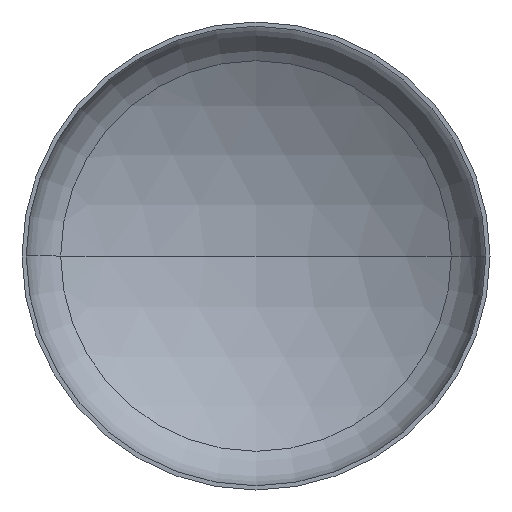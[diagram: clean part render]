
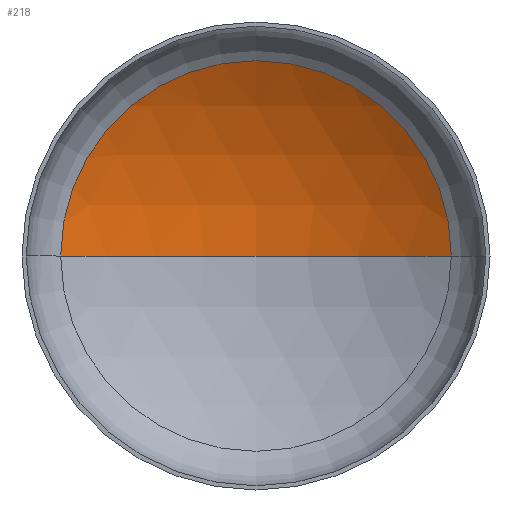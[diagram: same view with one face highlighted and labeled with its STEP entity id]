
A CAD part, front view. The second image highlights one B-rep face of the part: STEP entity #218.
In plain terms, the highlighted spherical face has radius 6000 mm.
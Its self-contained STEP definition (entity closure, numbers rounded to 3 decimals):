
#16 = VERTEX_POINT ( 'NONE', #318 ) ;
#28 = ORIENTED_EDGE ( 'NONE', *, *, #151, .T. ) ;
#31 = VERTEX_POINT ( 'NONE', #338 ) ;
#36 = ORIENTED_EDGE ( 'NONE', *, *, #154, .T. ) ;
#55 = VERTEX_POINT ( 'NONE', #275 ) ;
#73 = DIRECTION ( 'NONE',  ( 1., 0., 0. ) ) ;
#75 = ORIENTED_EDGE ( 'NONE', *, *, #157, .F. ) ;
#78 = DIRECTION ( 'NONE',  ( 0., 0., -1. ) ) ;
#82 = EDGE_LOOP ( 'NONE', ( #75, #36, #28 ) ) ;
#89 = AXIS2_PLACEMENT_3D ( 'NONE', #279, #325, #238 ) ;
#109 = AXIS2_PLACEMENT_3D ( 'NONE', #400, #262, #73 ) ;
#110 = AXIS2_PLACEMENT_3D ( 'NONE', #263, #78, #283 ) ;
#112 = AXIS2_PLACEMENT_3D ( 'NONE', #393, #211, #347 ) ;
#151 = EDGE_CURVE ( 'NONE', #31, #16, #195, .T. ) ;
#154 = EDGE_CURVE ( 'NONE', #55, #31, #257, .T. ) ;
#157 = EDGE_CURVE ( 'NONE', #55, #16, #375, .T. ) ;
#195 = CIRCLE ( 'NONE', #112, 3129.412 ) ;
#211 = DIRECTION ( 'NONE',  ( 0., -1., 0. ) ) ;
#218 = ADVANCED_FACE ( 'NONE', ( #294 ), #356, .F. ) ;
#238 = DIRECTION ( 'NONE',  ( -1., 0., 0. ) ) ;
#257 = CIRCLE ( 'NONE', #110, 6000. ) ;
#262 = DIRECTION ( 'NONE',  ( 0., 0., 1. ) ) ;
#263 = CARTESIAN_POINT ( 'NONE',  ( 0., -4013.799, 0. ) ) ;
#275 = CARTESIAN_POINT ( 'NONE',  ( 0., 1986.201, 0. ) ) ;
#279 = CARTESIAN_POINT ( 'NONE',  ( 0., -4013.799, 0. ) ) ;
#283 = DIRECTION ( 'NONE',  ( -1., 0., 0. ) ) ;
#294 = FACE_OUTER_BOUND ( 'NONE', #82, .T. ) ;
#318 = CARTESIAN_POINT ( 'NONE',  ( -3129.412, 1105.457, 0. ) ) ;
#325 = DIRECTION ( 'NONE',  ( 0., 0., -1. ) ) ;
#338 = CARTESIAN_POINT ( 'NONE',  ( 3129.412, 1105.457, 0. ) ) ;
#347 = DIRECTION ( 'NONE',  ( 1., 0., 0. ) ) ;
#356 = SPHERICAL_SURFACE ( 'NONE', #89, 6000. ) ;
#375 = CIRCLE ( 'NONE', #109, 6000. ) ;
#393 = CARTESIAN_POINT ( 'NONE',  ( 0., 1105.457, 0. ) ) ;
#400 = CARTESIAN_POINT ( 'NONE',  ( 0., -4013.799, 0. ) ) ;
